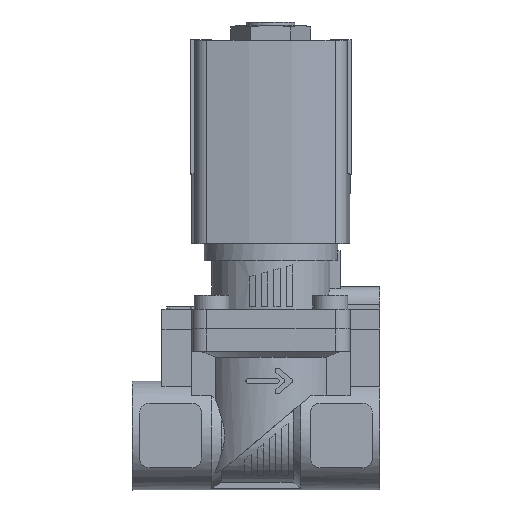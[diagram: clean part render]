
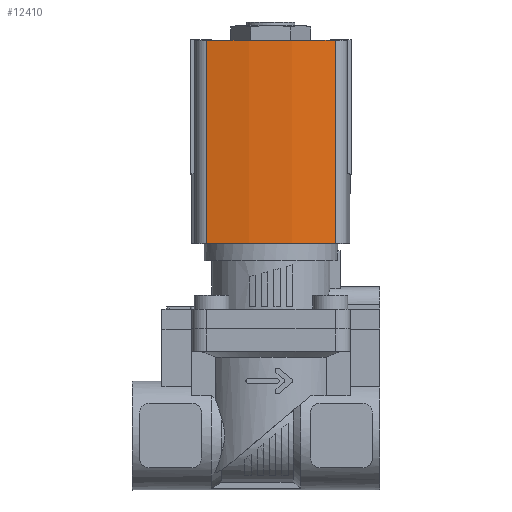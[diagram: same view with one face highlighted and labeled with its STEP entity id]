
A CAD part, top view. The second image highlights one B-rep face of the part: STEP entity #12410.
In plain terms, the highlighted cylindrical face has radius 60 mm (diameter 120 mm), a partial arc.
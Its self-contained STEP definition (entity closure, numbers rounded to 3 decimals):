
#237=CYLINDRICAL_SURFACE('',#13255,60.);
#1206=LINE('',#18998,#2260);
#1207=LINE('',#19002,#2261);
#2260=VECTOR('',#15732,1000.);
#2261=VECTOR('',#15737,1000.);
#4557=ORIENTED_EDGE('',*,*,#6540,.T.);
#4558=ORIENTED_EDGE('',*,*,#6541,.F.);
#4559=ORIENTED_EDGE('',*,*,#5826,.F.);
#4560=ORIENTED_EDGE('',*,*,#6539,.T.);
#5826=EDGE_CURVE('',#7065,#7066,#7784,.T.);
#6539=EDGE_CURVE('',#7065,#7571,#1206,.T.);
#6540=EDGE_CURVE('',#7571,#7572,#7878,.T.);
#6541=EDGE_CURVE('',#7066,#7572,#1207,.T.);
#7065=VERTEX_POINT('',#17652);
#7066=VERTEX_POINT('',#17654);
#7571=VERTEX_POINT('',#18997);
#7572=VERTEX_POINT('',#19001);
#7784=CIRCLE('',#13035,60.);
#7878=CIRCLE('',#13256,60.);
#8300=EDGE_LOOP('',(#4557,#4558,#4559,#4560));
#8877=FACE_BOUND('',#8300,.T.);
#12410=ADVANCED_FACE('',(#8877),#237,.T.);
#13035=AXIS2_PLACEMENT_3D('',#17653,#14673,#14674);
#13255=AXIS2_PLACEMENT_3D('',#18999,#15733,#15734);
#13256=AXIS2_PLACEMENT_3D('',#19000,#15735,#15736);
#14673=DIRECTION('',(0.,1.,0.));
#14674=DIRECTION('',(1.,0.,0.));
#15732=DIRECTION('',(0.,-1.,0.));
#15733=DIRECTION('',(0.,-1.,0.));
#15734=DIRECTION('',(0.,0.,-1.));
#15735=DIRECTION('',(0.,1.,0.));
#15736=DIRECTION('',(1.,0.,0.));
#15737=DIRECTION('',(0.,-1.,0.));
#17652=CARTESIAN_POINT('',(19.078,15.,12.986));
#17653=CARTESIAN_POINT('',(-39.5,15.,0.));
#17654=CARTESIAN_POINT('',(19.078,15.,-12.986));
#18997=CARTESIAN_POINT('',(19.078,-26.,12.986));
#18998=CARTESIAN_POINT('',(19.078,15.,12.986));
#18999=CARTESIAN_POINT('',(-39.5,15.,0.));
#19000=CARTESIAN_POINT('',(-39.5,-26.,0.));
#19001=CARTESIAN_POINT('',(19.078,-26.,-12.986));
#19002=CARTESIAN_POINT('',(19.078,15.,-12.986));
